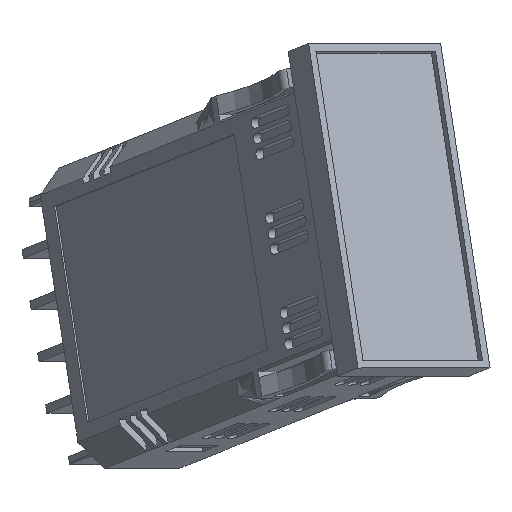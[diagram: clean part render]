
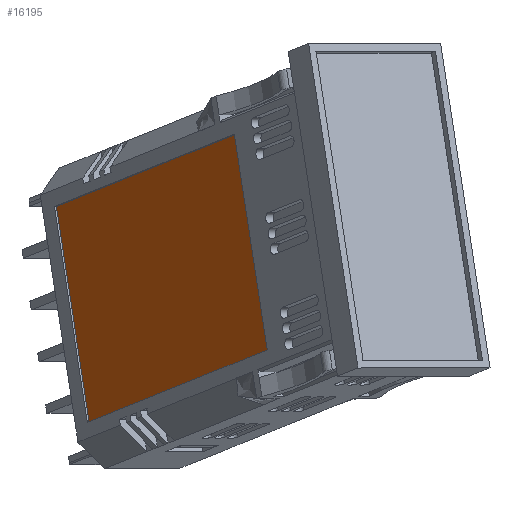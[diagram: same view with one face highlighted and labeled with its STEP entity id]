
A CAD part, front view. The second image highlights one B-rep face of the part: STEP entity #16195.
In plain terms, the highlighted planar face has unit normal (-0.79, -0.613, -0.001).
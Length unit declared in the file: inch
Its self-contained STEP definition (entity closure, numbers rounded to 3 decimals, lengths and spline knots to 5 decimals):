
#1567=FACE_OUTER_BOUND('',#2445,.T.);
#2445=EDGE_LOOP('',(#11561,#11562,#11563,#11564));
#3828=LINE('',#24533,#5330);
#3832=LINE('',#24540,#5334);
#3835=LINE('',#24546,#5337);
#3837=LINE('',#24549,#5339);
#5330=VECTOR('',#19838,0.3937);
#5334=VECTOR('',#19844,0.3937);
#5337=VECTOR('',#19849,0.3937);
#5339=VECTOR('',#19853,0.3937);
#6731=VERTEX_POINT('',#24530);
#6732=VERTEX_POINT('',#24532);
#6734=VERTEX_POINT('',#24538);
#6736=VERTEX_POINT('',#24544);
#8578=EDGE_CURVE('',#6731,#6732,#3828,.T.);
#8582=EDGE_CURVE('',#6734,#6731,#3832,.T.);
#8585=EDGE_CURVE('',#6736,#6734,#3835,.T.);
#8587=EDGE_CURVE('',#6732,#6736,#3837,.T.);
#11561=ORIENTED_EDGE('',*,*,#8587,.F.);
#11562=ORIENTED_EDGE('',*,*,#8578,.F.);
#11563=ORIENTED_EDGE('',*,*,#8582,.F.);
#11564=ORIENTED_EDGE('',*,*,#8585,.F.);
#14831=PLANE('',#17233);
#16195=ADVANCED_FACE('',(#1567),#14831,.F.);
#17233=AXIS2_PLACEMENT_3D('',#24550,#19854,#19855);
#19838=DIRECTION('',(-0.595,0.767,-0.24));
#19844=DIRECTION('',(0.148,-0.189,-0.971));
#19849=DIRECTION('',(0.595,-0.767,0.24));
#19853=DIRECTION('',(-0.148,0.189,0.971));
#19854=DIRECTION('center_axis',(0.79,0.613,0.001));
#19855=DIRECTION('ref_axis',(-0.595,0.767,-0.24));
#24530=CARTESIAN_POINT('',(-4.13142,-0.94331,-3.18305));
#24532=CARTESIAN_POINT('',(-5.14302,0.36085,-3.59028));
#24533=CARTESIAN_POINT('',(-5.14302,0.36085,-3.59028));
#24538=CARTESIAN_POINT('',(-4.31613,-0.70763,-1.96944));
#24540=CARTESIAN_POINT('',(-4.13142,-0.94331,-3.18305));
#24544=CARTESIAN_POINT('',(-5.32773,0.59653,-2.37668));
#24546=CARTESIAN_POINT('',(-4.31613,-0.70763,-1.96944));
#24549=CARTESIAN_POINT('',(-5.32773,0.59653,-2.37668));
#24550=CARTESIAN_POINT('Origin',(-4.72957,-0.17339,-2.77986));
